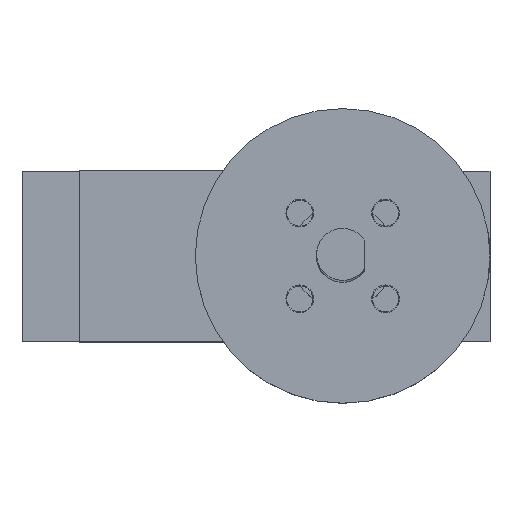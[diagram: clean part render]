
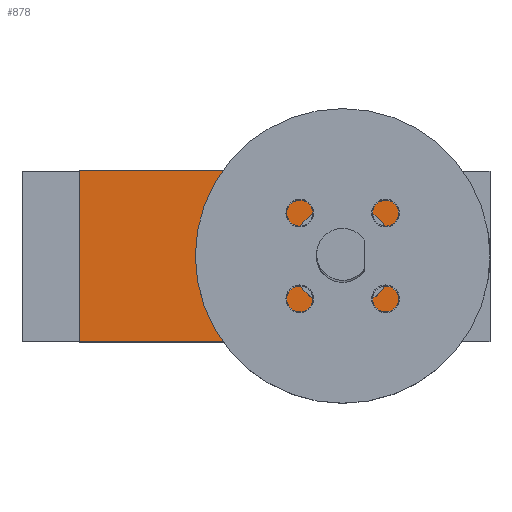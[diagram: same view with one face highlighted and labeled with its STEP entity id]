
A CAD part, top view. The second image highlights one B-rep face of the part: STEP entity #878.
In plain terms, the highlighted planar face has unit normal (0, 0, 1).
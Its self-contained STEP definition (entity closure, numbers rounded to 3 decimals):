
#74 = PLANE('',#75);
#75 = AXIS2_PLACEMENT_3D('',#76,#77,#78);
#76 = CARTESIAN_POINT('',(-20.35,-9.85,0.));
#77 = DIRECTION('',(0.,1.,0.));
#78 = DIRECTION('',(0.,0.,1.));
#130 = PLANE('',#131);
#131 = AXIS2_PLACEMENT_3D('',#132,#133,#134);
#132 = CARTESIAN_POINT('',(-20.35,9.85,0.));
#133 = DIRECTION('',(0.,1.,0.));
#134 = DIRECTION('',(0.,0.,1.));
#301 = VERTEX_POINT('',#302);
#302 = CARTESIAN_POINT('',(-20.35,-9.85,42.9));
#316 = PLANE('',#317);
#317 = AXIS2_PLACEMENT_3D('',#318,#319,#320);
#318 = CARTESIAN_POINT('',(-20.35,-9.85,0.));
#319 = DIRECTION('',(1.,0.,0.));
#320 = DIRECTION('',(0.,0.,1.));
#328 = EDGE_CURVE('',#301,#329,#331,.T.);
#329 = VERTEX_POINT('',#330);
#330 = CARTESIAN_POINT('',(20.35,-9.85,42.9));
#331 = SURFACE_CURVE('',#332,(#336,#343),.PCURVE_S1.);
#332 = LINE('',#333,#334);
#333 = CARTESIAN_POINT('',(-20.35,-9.85,42.9));
#334 = VECTOR('',#335,1.);
#335 = DIRECTION('',(1.,0.,0.));
#336 = PCURVE('',#74,#337);
#337 = DEFINITIONAL_REPRESENTATION('',(#338),#342);
#338 = LINE('',#339,#340);
#339 = CARTESIAN_POINT('',(42.9,0.));
#340 = VECTOR('',#341,1.);
#341 = DIRECTION('',(0.,1.));
#342 = ( GEOMETRIC_REPRESENTATION_CONTEXT(2) 
PARAMETRIC_REPRESENTATION_CONTEXT() REPRESENTATION_CONTEXT('2D SPACE',''
  ) );
#343 = PCURVE('',#344,#349);
#344 = PLANE('',#345);
#345 = AXIS2_PLACEMENT_3D('',#346,#347,#348);
#346 = CARTESIAN_POINT('',(-20.35,-9.85,42.9));
#347 = DIRECTION('',(0.,0.,1.));
#348 = DIRECTION('',(1.,0.,0.));
#349 = DEFINITIONAL_REPRESENTATION('',(#350),#354);
#350 = LINE('',#351,#352);
#351 = CARTESIAN_POINT('',(0.,0.));
#352 = VECTOR('',#353,1.);
#353 = DIRECTION('',(1.,0.));
#354 = ( GEOMETRIC_REPRESENTATION_CONTEXT(2) 
PARAMETRIC_REPRESENTATION_CONTEXT() REPRESENTATION_CONTEXT('2D SPACE',''
  ) );
#372 = PLANE('',#373);
#373 = AXIS2_PLACEMENT_3D('',#374,#375,#376);
#374 = CARTESIAN_POINT('',(20.35,-9.85,0.));
#375 = DIRECTION('',(1.,0.,0.));
#376 = DIRECTION('',(0.,0.,1.));
#613 = VERTEX_POINT('',#614);
#614 = CARTESIAN_POINT('',(-20.35,9.85,42.9));
#635 = EDGE_CURVE('',#613,#636,#638,.T.);
#636 = VERTEX_POINT('',#637);
#637 = CARTESIAN_POINT('',(20.35,9.85,42.9));
#638 = SURFACE_CURVE('',#639,(#643,#650),.PCURVE_S1.);
#639 = LINE('',#640,#641);
#640 = CARTESIAN_POINT('',(-20.35,9.85,42.9));
#641 = VECTOR('',#642,1.);
#642 = DIRECTION('',(1.,0.,0.));
#643 = PCURVE('',#130,#644);
#644 = DEFINITIONAL_REPRESENTATION('',(#645),#649);
#645 = LINE('',#646,#647);
#646 = CARTESIAN_POINT('',(42.9,0.));
#647 = VECTOR('',#648,1.);
#648 = DIRECTION('',(0.,1.));
#649 = ( GEOMETRIC_REPRESENTATION_CONTEXT(2) 
PARAMETRIC_REPRESENTATION_CONTEXT() REPRESENTATION_CONTEXT('2D SPACE',''
  ) );
#650 = PCURVE('',#344,#651);
#651 = DEFINITIONAL_REPRESENTATION('',(#652),#656);
#652 = LINE('',#653,#654);
#653 = CARTESIAN_POINT('',(0.,19.7));
#654 = VECTOR('',#655,1.);
#655 = DIRECTION('',(1.,0.));
#656 = ( GEOMETRIC_REPRESENTATION_CONTEXT(2) 
PARAMETRIC_REPRESENTATION_CONTEXT() REPRESENTATION_CONTEXT('2D SPACE',''
  ) );
#858 = EDGE_CURVE('',#301,#613,#859,.T.);
#859 = SURFACE_CURVE('',#860,(#864,#871),.PCURVE_S1.);
#860 = LINE('',#861,#862);
#861 = CARTESIAN_POINT('',(-20.35,-9.85,42.9));
#862 = VECTOR('',#863,1.);
#863 = DIRECTION('',(0.,1.,0.));
#864 = PCURVE('',#316,#865);
#865 = DEFINITIONAL_REPRESENTATION('',(#866),#870);
#866 = LINE('',#867,#868);
#867 = CARTESIAN_POINT('',(42.9,0.));
#868 = VECTOR('',#869,1.);
#869 = DIRECTION('',(0.,-1.));
#870 = ( GEOMETRIC_REPRESENTATION_CONTEXT(2) 
PARAMETRIC_REPRESENTATION_CONTEXT() REPRESENTATION_CONTEXT('2D SPACE',''
  ) );
#871 = PCURVE('',#344,#872);
#872 = DEFINITIONAL_REPRESENTATION('',(#873),#877);
#873 = LINE('',#874,#875);
#874 = CARTESIAN_POINT('',(0.,0.));
#875 = VECTOR('',#876,1.);
#876 = DIRECTION('',(0.,1.));
#877 = ( GEOMETRIC_REPRESENTATION_CONTEXT(2) 
PARAMETRIC_REPRESENTATION_CONTEXT() REPRESENTATION_CONTEXT('2D SPACE',''
  ) );
#878 = ADVANCED_FACE('',(#879,#905),#344,.T.);
#879 = FACE_BOUND('',#880,.T.);
#880 = EDGE_LOOP('',(#881,#882,#883,#904));
#881 = ORIENTED_EDGE('',*,*,#858,.F.);
#882 = ORIENTED_EDGE('',*,*,#328,.T.);
#883 = ORIENTED_EDGE('',*,*,#884,.T.);
#884 = EDGE_CURVE('',#329,#636,#885,.T.);
#885 = SURFACE_CURVE('',#886,(#890,#897),.PCURVE_S1.);
#886 = LINE('',#887,#888);
#887 = CARTESIAN_POINT('',(20.35,-9.85,42.9));
#888 = VECTOR('',#889,1.);
#889 = DIRECTION('',(0.,1.,0.));
#890 = PCURVE('',#344,#891);
#891 = DEFINITIONAL_REPRESENTATION('',(#892),#896);
#892 = LINE('',#893,#894);
#893 = CARTESIAN_POINT('',(40.7,0.));
#894 = VECTOR('',#895,1.);
#895 = DIRECTION('',(0.,1.));
#896 = ( GEOMETRIC_REPRESENTATION_CONTEXT(2) 
PARAMETRIC_REPRESENTATION_CONTEXT() REPRESENTATION_CONTEXT('2D SPACE',''
  ) );
#897 = PCURVE('',#372,#898);
#898 = DEFINITIONAL_REPRESENTATION('',(#899),#903);
#899 = LINE('',#900,#901);
#900 = CARTESIAN_POINT('',(42.9,0.));
#901 = VECTOR('',#902,1.);
#902 = DIRECTION('',(0.,-1.));
#903 = ( GEOMETRIC_REPRESENTATION_CONTEXT(2) 
PARAMETRIC_REPRESENTATION_CONTEXT() REPRESENTATION_CONTEXT('2D SPACE',''
  ) );
#904 = ORIENTED_EDGE('',*,*,#635,.F.);
#905 = FACE_BOUND('',#906,.T.);
#906 = EDGE_LOOP('',(#907));
#907 = ORIENTED_EDGE('',*,*,#908,.F.);
#908 = EDGE_CURVE('',#909,#909,#911,.T.);
#909 = VERTEX_POINT('',#910);
#910 = CARTESIAN_POINT('',(16.,0.,42.9));
#911 = SURFACE_CURVE('',#912,(#917,#924),.PCURVE_S1.);
#912 = CIRCLE('',#913,6.);
#913 = AXIS2_PLACEMENT_3D('',#914,#915,#916);
#914 = CARTESIAN_POINT('',(10.,0.,42.9));
#915 = DIRECTION('',(0.,0.,1.));
#916 = DIRECTION('',(1.,0.,0.));
#917 = PCURVE('',#344,#918);
#918 = DEFINITIONAL_REPRESENTATION('',(#919),#923);
#919 = CIRCLE('',#920,6.);
#920 = AXIS2_PLACEMENT_2D('',#921,#922);
#921 = CARTESIAN_POINT('',(30.35,9.85));
#922 = DIRECTION('',(1.,0.));
#923 = ( GEOMETRIC_REPRESENTATION_CONTEXT(2) 
PARAMETRIC_REPRESENTATION_CONTEXT() REPRESENTATION_CONTEXT('2D SPACE',''
  ) );
#924 = PCURVE('',#925,#930);
#925 = CYLINDRICAL_SURFACE('',#926,6.);
#926 = AXIS2_PLACEMENT_3D('',#927,#928,#929);
#927 = CARTESIAN_POINT('',(10.,0.,42.9));
#928 = DIRECTION('',(-0.,-0.,-1.));
#929 = DIRECTION('',(1.,0.,0.));
#930 = DEFINITIONAL_REPRESENTATION('',(#931),#935);
#931 = LINE('',#932,#933);
#932 = CARTESIAN_POINT('',(-0.,0.));
#933 = VECTOR('',#934,1.);
#934 = DIRECTION('',(-1.,0.));
#935 = ( GEOMETRIC_REPRESENTATION_CONTEXT(2) 
PARAMETRIC_REPRESENTATION_CONTEXT() REPRESENTATION_CONTEXT('2D SPACE',''
  ) );
